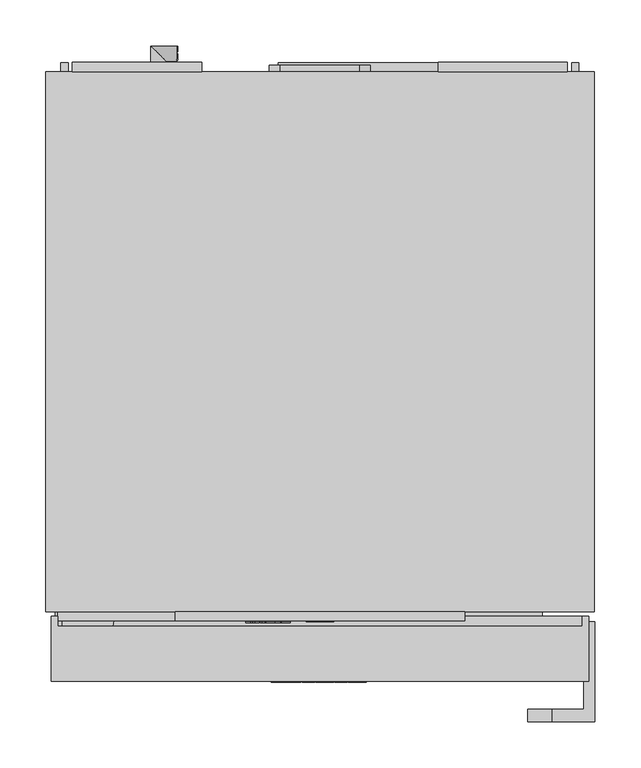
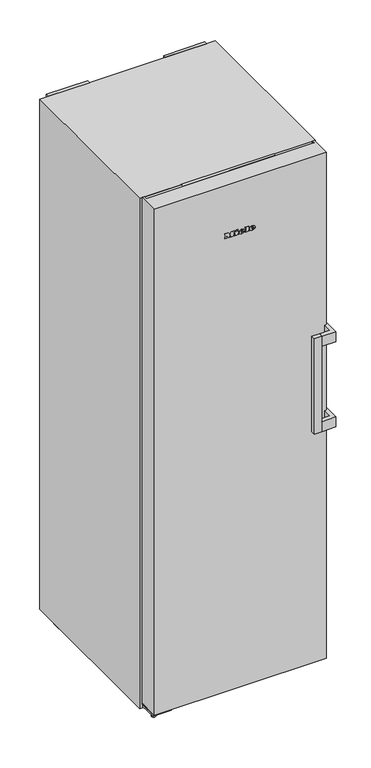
"""IFC4 building model written with IfcOpenShell, lengths in millimetres: proxy geometry, 11953070_EU2_FNS4382E_EL-N : 37438251_EU2_11953070_FNS4382E_EL-N."""

from ifc_helpers import new_model, si_unit, point, frame, frame_2d, origin, origin_with_axes, place, context, project, spatial, polyline, circle_curve, ellipse_curve, trimmed, segment, composite_curve, outline, extrude, faceted_brep, source, transform, mapped, element, save
from ifc_brep_helpers import plane_surface, cylinder_surface, revolved_surface, extruded_surface, advanced_brep


def specialty_equipment_a60234ec(model_context):
    return source(origin(), model_context, "Body", "SolidModel", [
        extrude(outline(polyline([(15.0, -609.5), (-15.0, -609.5), (-15.0, -606.5), (15.0, -606.5), (15.0, -609.5)])), frame((0.0, 0.0, 1812.0), z_axis=(0.0, 0.0, 1.0), x_axis=(1.0, 0.0, 0.0)), (0.0, 0.0, 1.0), 28.0),
        extrude(outline(polyline([(1845.5, 105.0), (1845.5, -105.0), (1806.5, -105.0), (1806.5, 105.0), (1845.5, 105.0)]), holes=[polyline([(1840.0, -15.0), (1840.0, 15.0), (1812.0, 15.0), (1812.0, -15.0), (1840.0, -15.0)])]), frame((0.0, -608.5, 0.0), z_axis=(0.0, 1.0, 0.0), x_axis=(0.0, 0.0, 1.0)), (0.0, 0.0, 1.0), 2.0),
        faceted_brep([(157.5, -598.5, 1802.0), (157.5, -608.5, 1802.0), (-157.5, -608.5, 1802.0), (-157.5, -598.5, 1802.0), (157.5, -598.5, 1850.0), (-157.5, -598.5, 1850.0), (-157.5, -608.5, 1850.0), (157.5, -608.5, 1850.0), (-105.0, -608.5, 1845.5), (105.0, -608.5, 1845.5), (105.0, -608.5, 1806.5), (-105.0, -608.5, 1806.5), (105.0, -606.5, 1845.5), (-105.0, -606.5, 1845.5), (-105.0, -606.5, 1806.5), (105.0, -606.5, 1806.5)], [[[0, 1, 2, 3]], [[4, 5, 6, 7]], [[0, 3, 5, 4]], [[3, 2, 6, 5]], [[2, 1, 7, 6], [8, 9, 10, 11]], [[1, 0, 4, 7]], [[12, 13, 14, 15]], [[13, 12, 9, 8]], [[14, 13, 8, 11]], [[15, 14, 11, 10]], [[12, 15, 10, 9]]]),
        advanced_brep(
        [(39.0804776, -675.5, 1668.7956125), (39.0804776, -675.5, 1670.5126125), (50.4534776, -675.5, 1670.5126125), (30.6654776, -675.5, 1670.5126125), (35.3404776, -675.5, 1664.7666125), (50.1644776, -675.5, 1668.7956125), (45.0304776, -675.5, 1668.7956125), (40.9844776, -675.5, 1666.8916125), (39.0804776, -675.5, 1672.6886125), (39.0804776, -675.5, 1674.5416125), (41.9874776, -675.5, 1674.5416125), (41.9874776, -675.5, 1672.6886125), (39.0804776, -674.5, 1668.7956125), (40.9844776, -674.5, 1666.8916125), (45.0304776, -674.5, 1668.7956125), (50.1644776, -674.5, 1668.7956125), (35.3404776, -674.5, 1664.7666125), (30.6654776, -674.5, 1670.5126125), (50.4534776, -674.5, 1670.5126125), (39.0804776, -674.5, 1670.5126125), (39.0804776, -674.5, 1672.6886125), (41.9874776, -674.5, 1672.6886125), (41.9874776, -674.5, 1674.5416125), (39.0804776, -674.5, 1674.5416125)],
        [
            (0, 1),
            (1, 2),
            (2, 3, ellipse_curve(frame((40.5594776, -675.5, 1670.5126125), z_axis=(0.0, -1.0, 0.0), x_axis=(-1.0, 0.0, 0.0)), 9.894, 8.177)),
            (3, 4, circle_curve(frame((37.2445704, -675.5, 1671.0906125), z_axis=(0.0, -1.0, 0.0), x_axis=(0.0, 0.0, -1.0)), 6.6044337)),
            (4, 5, circle_curve(frame((40.361414, -675.5, 1675.5786125), z_axis=(0.0, -1.0, 0.0), x_axis=(0.0, 0.0, -1.0)), 11.9209541)),
            (5, 6),
            (6, 7, circle_curve(frame((41.8154776, -675.5, 1670.3766125), z_axis=(0.0, 1.0, 0.0), x_axis=(0.0, 0.0, -1.0)), 3.5827065)),
            (7, 0, circle_curve(frame((40.9844776, -675.5, 1668.7956125), z_axis=(0.0, 1.0, 0.0), x_axis=(0.0, 0.0, -1.0)), 1.904)),
            (8, 9),
            (9, 10, circle_curve(frame((40.5339776, -675.5, 1674.5416125), z_axis=(0.0, 1.0, 0.0), x_axis=(0.0, 0.0, -1.0)), 1.4535)),
            (10, 11),
            (11, 8),
            (12, 13, circle_curve(frame((40.9844776, -674.5, 1668.7956125), z_axis=(0.0, -1.0, 0.0), x_axis=(0.0, 0.0, -1.0)), 1.904)),
            (13, 14, circle_curve(frame((41.8154776, -674.5, 1670.3766125), z_axis=(0.0, -1.0, 0.0), x_axis=(0.0, 0.0, -1.0)), 3.5827065)),
            (14, 15),
            (15, 16, circle_curve(frame((40.361414, -674.5, 1675.5786125), z_axis=(0.0, 1.0, 0.0), x_axis=(0.0, 0.0, -1.0)), 11.9209541)),
            (16, 17, circle_curve(frame((37.2445704, -674.5, 1671.0906125), z_axis=(0.0, 1.0, 0.0), x_axis=(0.0, 0.0, -1.0)), 6.6044337)),
            (17, 18, ellipse_curve(frame((40.5594776, -674.5, 1670.5126125), z_axis=(0.0, 1.0, 0.0), x_axis=(-1.0, 0.0, 0.0)), 9.894, 8.177)),
            (18, 19),
            (19, 12),
            (20, 21),
            (21, 22),
            (22, 23, circle_curve(frame((40.5339776, -674.5, 1674.5416125), z_axis=(0.0, -1.0, 0.0), x_axis=(0.0, 0.0, -1.0)), 1.4535)),
            (23, 20),
            (0, 12),
            (19, 1),
            (18, 2),
            (5, 15),
            (14, 6),
            (17, 3),
            (13, 7),
            (16, 4),
            (8, 20),
            (23, 9),
            (22, 10),
            (21, 11),
        ],
        [
            plane_surface(frame((39.0804776, -675.5, 1670.5126125), z_axis=(0.0, -1.0, 0.0), x_axis=(0.0, 0.0, 1.0))),
            plane_surface(frame((39.0804776, -674.5, 1670.5126125), z_axis=(0.0, 1.0, 0.0), x_axis=(0.0, 0.0, -1.0))),
            plane_surface(frame((39.0804776, -675.5, 1668.7956125), z_axis=(1.0, 0.0, 0.0), x_axis=(0.0, 1.0, 0.0))),
            plane_surface(frame((39.0804776, -675.5, 1670.5126125), z_axis=(0.0, 0.0, -1.0), x_axis=(0.0, 1.0, 0.0))),
            plane_surface(frame((50.1644776, -675.5, 1668.7956125), z_axis=(0.0, 0.0, 1.0), x_axis=(0.0, 1.0, 0.0))),
            extruded_surface(trimmed(ellipse_curve(frame((40.5594776, -673.5, 1670.5126125), z_axis=(0.0, -1.0, 0.0), x_axis=(-1.0, 0.0, 0.0)), 9.894, 8.177), [point((50.4534776, -673.5, 1670.5126125))], [point((30.6654776, -673.5, 1670.5126125))], True, "CARTESIAN"), (0.0, -1.0, 0.0), 1.0),
            revolved_surface(polyline([(41.8154776, -674.5, 1666.7939059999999), (41.8154776, -675.5, 1666.7939059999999)]), (41.8154776, -674.5, 1670.3766125), (0.0, 1.0, 0.0)),
            revolved_surface(polyline([(40.9844776, -674.5, 1666.8916125), (40.9844776, -675.5, 1666.8916125)]), (40.9844776, -674.5, 1668.7956125), (0.0, 1.0, 0.0)),
            cylinder_surface(frame((37.2445704, -674.5, 1671.0906125), z_axis=(0.0, -1.0, 0.0), x_axis=(0.0, 0.0, -1.0)), 6.6044337),
            cylinder_surface(frame((40.361414, -674.5, 1675.5786125), z_axis=(0.0, -1.0, 0.0), x_axis=(0.0, 0.0, -1.0)), 11.9209541),
            plane_surface(frame((39.0804776, -675.5, 1672.6886125), z_axis=(1.0, 0.0, 0.0), x_axis=(0.0, 1.0, 0.0))),
            revolved_surface(polyline([(40.5339776, -674.5, 1673.0881124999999), (40.5339776, -675.5, 1673.0881124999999)]), (40.5339776, -674.5, 1674.5416125), (0.0, 1.0, 0.0)),
            plane_surface(frame((41.9874776, -675.5, 1674.5416125), z_axis=(-1.0, 0.0, 0.0), x_axis=(0.0, 1.0, 0.0))),
            plane_surface(frame((41.9874776, -675.5, 1672.6886125), z_axis=(0.0, 0.0, 1.0), x_axis=(0.0, 1.0, 0.0))),
        ],
        [
            (0, [[1, 2, 3, 4, 5, 6, 7, 8], [9, 10, 11, 12]]),
            (1, [[13, 14, 15, 16, 17, 18, 19, 20], [21, 22, 23, 24]]),
            (2, [[-1, 25, -20, 26]]),
            (3, [[-2, -26, -19, 27]]),
            (4, [[-6, 28, -15, 29]]),
            (5, [[-3, -27, -18, 30]]),
            (6, [[-7, -29, -14, 31]]),
            (7, [[-8, -31, -13, -25]]),
            (8, [[-4, -30, -17, 32]]),
            (9, [[-5, -32, -16, -28]]),
            (10, [[-9, 33, -24, 34]]),
            (11, [[-10, -34, -23, 35]]),
            (12, [[-11, -35, -22, 36]]),
            (13, [[-12, -36, -21, -33]]),
        ],
    ),
        advanced_brep(
        [(3.6014776, -675.5, 1668.7956125), (3.6014776, -675.5, 1670.5126125), (14.9744776, -675.5, 1670.5126125), (-4.8135224, -675.5, 1670.5126125), (-0.1385224, -675.5, 1664.7666125), (14.6854776, -675.5, 1668.7956125), (9.5514776, -675.5, 1668.7956125), (5.5054776, -675.5, 1666.8916125), (3.6014776, -675.5, 1672.6886125), (3.6014776, -675.5, 1674.5416125), (6.5084776, -675.5, 1674.5416125), (6.5084776, -675.5, 1672.6886125), (3.6014776, -674.5, 1668.7956125), (5.5054776, -674.5, 1666.8916125), (9.5514776, -674.5, 1668.7956125), (14.6854776, -674.5, 1668.7956125), (-0.1385224, -674.5, 1664.7666125), (-4.8135224, -674.5, 1670.5126125), (14.9744776, -674.5, 1670.5126125), (3.6014776, -674.5, 1670.5126125), (3.6014776, -674.5, 1672.6886125), (6.5084776, -674.5, 1672.6886125), (6.5084776, -674.5, 1674.5416125), (3.6014776, -674.5, 1674.5416125)],
        [
            (0, 1),
            (1, 2),
            (2, 3, ellipse_curve(frame((5.0804776, -675.5, 1670.5126125), z_axis=(0.0, -1.0, 0.0), x_axis=(-1.0, 0.0, 0.0)), 9.894, 8.177)),
            (3, 4, circle_curve(frame((1.7655704, -675.5, 1671.0906125), z_axis=(0.0, -1.0, 0.0), x_axis=(0.0, 0.0, -1.0)), 6.6044337)),
            (4, 5, circle_curve(frame((4.882414, -675.5, 1675.5786125), z_axis=(0.0, -1.0, 0.0), x_axis=(0.0, 0.0, -1.0)), 11.9209541)),
            (5, 6),
            (6, 7, circle_curve(frame((6.3364776, -675.5, 1670.3766125), z_axis=(0.0, 1.0, 0.0), x_axis=(0.0, 0.0, -1.0)), 3.5827065)),
            (7, 0, circle_curve(frame((5.5054776, -675.5, 1668.7956125), z_axis=(0.0, 1.0, 0.0), x_axis=(0.0, 0.0, -1.0)), 1.904)),
            (8, 9),
            (9, 10, circle_curve(frame((5.0549776, -675.5, 1674.5416125), z_axis=(0.0, 1.0, 0.0), x_axis=(0.0, 0.0, -1.0)), 1.4535)),
            (10, 11),
            (11, 8),
            (12, 13, circle_curve(frame((5.5054776, -674.5, 1668.7956125), z_axis=(0.0, -1.0, 0.0), x_axis=(0.0, 0.0, -1.0)), 1.904)),
            (13, 14, circle_curve(frame((6.3364776, -674.5, 1670.3766125), z_axis=(0.0, -1.0, 0.0), x_axis=(0.0, 0.0, -1.0)), 3.5827065)),
            (14, 15),
            (15, 16, circle_curve(frame((4.882414, -674.5, 1675.5786125), z_axis=(0.0, 1.0, 0.0), x_axis=(0.0, 0.0, -1.0)), 11.9209541)),
            (16, 17, circle_curve(frame((1.7655704, -674.5, 1671.0906125), z_axis=(0.0, 1.0, 0.0), x_axis=(0.0, 0.0, -1.0)), 6.6044337)),
            (17, 18, ellipse_curve(frame((5.0804776, -674.5, 1670.5126125), z_axis=(0.0, 1.0, 0.0), x_axis=(-1.0, 0.0, 0.0)), 9.894, 8.177)),
            (18, 19),
            (19, 12),
            (20, 21),
            (21, 22),
            (22, 23, circle_curve(frame((5.0549776, -674.5, 1674.5416125), z_axis=(0.0, -1.0, 0.0), x_axis=(0.0, 0.0, -1.0)), 1.4535)),
            (23, 20),
            (0, 12),
            (19, 1),
            (18, 2),
            (5, 15),
            (14, 6),
            (17, 3),
            (13, 7),
            (16, 4),
            (8, 20),
            (23, 9),
            (22, 10),
            (21, 11),
        ],
        [
            plane_surface(frame((3.6014776, -675.5, 1670.5126125), z_axis=(0.0, -1.0, 0.0), x_axis=(0.0, 0.0, 1.0))),
            plane_surface(frame((3.6014776, -674.5, 1670.5126125), z_axis=(0.0, 1.0, 0.0), x_axis=(0.0, 0.0, -1.0))),
            plane_surface(frame((3.6014776, -675.5, 1668.7956125), z_axis=(1.0, 0.0, 0.0), x_axis=(0.0, 1.0, 0.0))),
            plane_surface(frame((3.6014776, -675.5, 1670.5126125), z_axis=(0.0, 0.0, -1.0), x_axis=(0.0, 1.0, 0.0))),
            plane_surface(frame((14.6854776, -675.5, 1668.7956125), z_axis=(0.0, 0.0, 1.0), x_axis=(0.0, 1.0, 0.0))),
            extruded_surface(trimmed(ellipse_curve(frame((5.0804776, -673.5, 1670.5126125), z_axis=(0.0, -1.0, 0.0), x_axis=(-1.0, 0.0, 0.0)), 9.894, 8.177), [point((14.9744776, -673.5, 1670.5126125))], [point((-4.8135224, -673.5, 1670.5126125))], True, "CARTESIAN"), (0.0, -1.0, 0.0), 1.0),
            revolved_surface(polyline([(6.3364776, -674.5, 1666.7939059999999), (6.3364776, -675.5, 1666.7939059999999)]), (6.3364776, -674.5, 1670.3766125), (0.0, 1.0, 0.0)),
            revolved_surface(polyline([(5.5054776, -674.5, 1666.8916125), (5.5054776, -675.5, 1666.8916125)]), (5.5054776, -674.5, 1668.7956125), (0.0, 1.0, 0.0)),
            cylinder_surface(frame((1.7655704, -674.5, 1671.0906125), z_axis=(0.0, -1.0, 0.0), x_axis=(0.0, 0.0, -1.0)), 6.6044337),
            cylinder_surface(frame((4.882414, -674.5, 1675.5786125), z_axis=(0.0, -1.0, 0.0), x_axis=(0.0, 0.0, -1.0)), 11.9209541),
            plane_surface(frame((3.6014776, -675.5, 1672.6886125), z_axis=(1.0, 0.0, 0.0), x_axis=(0.0, 1.0, 0.0))),
            revolved_surface(polyline([(5.0549776, -674.5, 1673.0881124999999), (5.0549776, -675.5, 1673.0881124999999)]), (5.0549776, -674.5, 1674.5416125), (0.0, 1.0, 0.0)),
            plane_surface(frame((6.5084776, -675.5, 1674.5416125), z_axis=(-1.0, 0.0, 0.0), x_axis=(0.0, 1.0, 0.0))),
            plane_surface(frame((6.5084776, -675.5, 1672.6886125), z_axis=(0.0, 0.0, 1.0), x_axis=(0.0, 1.0, 0.0))),
        ],
        [
            (0, [[1, 2, 3, 4, 5, 6, 7, 8], [9, 10, 11, 12]]),
            (1, [[13, 14, 15, 16, 17, 18, 19, 20], [21, 22, 23, 24]]),
            (2, [[-1, 25, -20, 26]]),
            (3, [[-2, -26, -19, 27]]),
            (4, [[-6, 28, -15, 29]]),
            (5, [[-3, -27, -18, 30]]),
            (6, [[-7, -29, -14, 31]]),
            (7, [[-8, -31, -13, -25]]),
            (8, [[-4, -30, -17, 32]]),
            (9, [[-5, -32, -16, -28]]),
            (10, [[-9, 33, -24, 34]]),
            (11, [[-10, -34, -23, 35]]),
            (12, [[-11, -35, -22, 36]]),
            (13, [[-12, -36, -21, -33]]),
        ],
    ),
        extrude(outline(polyline([(1680.7636125, -14.9795224), (1678.0096125, -13.6875224), (1680.6956125, -7.9245224), (1683.4496125, -9.1995224), (1680.7636125, -14.9795224)])), frame((0.0, -675.5, 0.0), z_axis=(0.0, 1.0, 0.0), x_axis=(0.0, 0.0, 1.0)), (0.0, 0.0, 1.0), 1.0),
        extrude(outline(polyline([(1677.6356125, -19.1785224), (1674.5926125, -19.1785224), (1674.5926125, -17.1555224), (1667.6226125, -17.1555224), (1667.6226125, -19.1785224), (1664.7666125, -19.1785224), (1664.7666125, -5.7655224), (1667.6226125, -5.7655224), (1667.6226125, -7.7375224), (1677.6356125, -7.7375224), (1677.6356125, -19.1785224)])), frame((0.0, -675.5, 0.0), z_axis=(0.0, 1.0, 0.0), x_axis=(0.0, 0.0, 1.0)), (0.0, 0.0, 1.0), 1.0),
        extrude(outline(polyline([(1678.9956125, 15.9264776), (1678.9956125, 17.9664776), (1667.6226125, 17.9664776), (1667.6226125, 15.9264776), (1664.7666125, 15.9264776), (1664.7666125, 29.7134776), (1667.6226125, 29.7134776), (1667.6226125, 27.6224776), (1681.7666125, 27.6224776), (1681.7666125, 15.9264776), (1678.9956125, 15.9264776)])), frame((0.0, -675.5, 0.0), z_axis=(0.0, 1.0, 0.0), x_axis=(0.0, 0.0, 1.0)), (0.0, 0.0, 1.0), 1.0),
        extrude(outline(polyline([(1678.9956125, -53.0595224), (1678.9956125, -51.0025224), (1667.6226125, -51.0025224), (1667.6226125, -53.0595224), (1664.7666125, -53.0595224), (1664.7666125, -45.5795224), (1667.6226125, -45.5795224), (1667.6226125, -47.6195224), (1674.7967372, -47.6195224), (1664.7666125, -40.0205224), (1675.2068348, -32.3875224), (1667.6226125, -32.3875224), (1667.6226125, -34.4785224), (1664.7666125, -34.4785224), (1664.7666125, -20.9125224), (1667.6226125, -20.9125224), (1667.6226125, -23.0715224), (1678.9956125, -23.0715224), (1678.9956125, -20.9125224), (1681.7666125, -20.9125224), (1681.7666125, -31.2655224), (1675.3916125, -36.2295224), (1681.7666125, -41.2105224), (1681.7666125, -53.0595224), (1678.9956125, -53.0595224)])), frame((0.0, -675.5, 0.0), z_axis=(0.0, 1.0, 0.0), x_axis=(0.0, 0.0, 1.0)), (0.0, 0.0, 1.0), 1.0),
        advanced_brep(
        [(-37.64, -610.5, 1828.896), (-37.64, -610.5, 1829.704), (-32.288, -610.5, 1829.704), (-41.6, -610.5, 1829.704), (-39.4, -610.5, 1827.0), (-32.424, -610.5, 1828.896), (-34.84, -610.5, 1828.896), (-36.744, -610.5, 1828.0), (-37.64, -610.5, 1830.728), (-37.64, -610.5, 1831.6), (-36.272, -610.5, 1831.6), (-36.272, -610.5, 1830.728), (-37.64, -609.5, 1828.896), (-36.744, -609.5, 1828.0), (-34.84, -609.5, 1828.896), (-32.424, -609.5, 1828.896), (-39.4, -609.5, 1827.0), (-41.6, -609.5, 1829.704), (-32.288, -609.5, 1829.704), (-37.64, -609.5, 1829.704), (-37.64, -609.5, 1830.728), (-36.272, -609.5, 1830.728), (-36.272, -609.5, 1831.6), (-37.64, -609.5, 1831.6)],
        [
            (0, 1),
            (1, 2),
            (2, 3, ellipse_curve(frame((-36.944, -610.5, 1829.704), z_axis=(0.0, -1.0, 0.0), x_axis=(-1.0, 0.0, 0.0)), 4.656, 3.848)),
            (3, 4, circle_curve(frame((-38.5039564, -610.5, 1829.976), z_axis=(0.0, -1.0, 0.0), x_axis=(0.0, 0.0, -1.0)), 3.1079688)),
            (4, 5, circle_curve(frame((-37.0372064, -610.5, 1832.088), z_axis=(0.0, -1.0, 0.0), x_axis=(0.0, 0.0, -1.0)), 5.6098607)),
            (5, 6),
            (6, 7, circle_curve(frame((-36.3529412, -610.5, 1829.64), z_axis=(0.0, 1.0, 0.0), x_axis=(0.0, 0.0, -1.0)), 1.6859795)),
            (7, 0, circle_curve(frame((-36.744, -610.5, 1828.896), z_axis=(0.0, 1.0, 0.0), x_axis=(0.0, 0.0, -1.0)), 0.896)),
            (8, 9),
            (9, 10, circle_curve(frame((-36.956, -610.5, 1831.6), z_axis=(0.0, 1.0, 0.0), x_axis=(0.0, 0.0, -1.0)), 0.684)),
            (10, 11),
            (11, 8),
            (12, 13, circle_curve(frame((-36.744, -609.5, 1828.896), z_axis=(0.0, -1.0, 0.0), x_axis=(0.0, 0.0, -1.0)), 0.896)),
            (13, 14, circle_curve(frame((-36.3529412, -609.5, 1829.64), z_axis=(0.0, -1.0, 0.0), x_axis=(0.0, 0.0, -1.0)), 1.6859795)),
            (14, 15),
            (15, 16, circle_curve(frame((-37.0372064, -609.5, 1832.088), z_axis=(0.0, 1.0, 0.0), x_axis=(0.0, 0.0, -1.0)), 5.6098607)),
            (16, 17, circle_curve(frame((-38.5039564, -609.5, 1829.976), z_axis=(0.0, 1.0, 0.0), x_axis=(0.0, 0.0, -1.0)), 3.1079688)),
            (17, 18, ellipse_curve(frame((-36.944, -609.5, 1829.704), z_axis=(0.0, 1.0, 0.0), x_axis=(-1.0, 0.0, 0.0)), 4.656, 3.848)),
            (18, 19),
            (19, 12),
            (20, 21),
            (21, 22),
            (22, 23, circle_curve(frame((-36.956, -609.5, 1831.6), z_axis=(0.0, -1.0, 0.0), x_axis=(0.0, 0.0, -1.0)), 0.684)),
            (23, 20),
            (0, 12),
            (19, 1),
            (18, 2),
            (5, 15),
            (14, 6),
            (17, 3),
            (13, 7),
            (16, 4),
            (8, 20),
            (23, 9),
            (22, 10),
            (21, 11),
        ],
        [
            plane_surface(frame((-37.64, -610.5, 1829.704), z_axis=(0.0, -1.0, 0.0), x_axis=(0.0, 0.0, 1.0))),
            plane_surface(frame((-37.64, -609.5, 1829.704), z_axis=(0.0, 1.0, 0.0), x_axis=(0.0, 0.0, -1.0))),
            plane_surface(frame((-37.64, -610.5, 1828.896), z_axis=(1.0, 0.0, 0.0), x_axis=(0.0, 1.0, 0.0))),
            plane_surface(frame((-37.64, -610.5, 1829.704), z_axis=(0.0, 0.0, -1.0), x_axis=(0.0, 1.0, 0.0))),
            plane_surface(frame((-32.424, -610.5, 1828.896), z_axis=(0.0, 0.0, 1.0), x_axis=(0.0, 1.0, 0.0))),
            extruded_surface(trimmed(ellipse_curve(frame((-36.944, -608.5, 1829.704), z_axis=(0.0, -1.0, 0.0), x_axis=(-1.0, 0.0, 0.0)), 4.656, 3.848), [point((-32.288, -608.5, 1829.704))], [point((-41.6, -608.5, 1829.704))], True, "CARTESIAN"), (0.0, -1.0, 0.0), 1.0),
            revolved_surface(polyline([(-36.3529412, -609.5, 1827.9540205), (-36.3529412, -610.5, 1827.9540205)]), (-36.3529412, -609.5, 1829.64), (0.0, 1.0, 0.0)),
            revolved_surface(polyline([(-36.744, -609.5, 1828.0), (-36.744, -610.5, 1828.0)]), (-36.744, -609.5, 1828.896), (0.0, 1.0, 0.0)),
            cylinder_surface(frame((-38.5039564, -609.5, 1829.976), z_axis=(0.0, -1.0, 0.0), x_axis=(0.0, 0.0, -1.0)), 3.1079688),
            cylinder_surface(frame((-37.0372064, -609.5, 1832.088), z_axis=(0.0, -1.0, 0.0), x_axis=(0.0, 0.0, -1.0)), 5.6098607),
            plane_surface(frame((-37.64, -610.5, 1830.728), z_axis=(1.0, 0.0, 0.0), x_axis=(0.0, 1.0, 0.0))),
            revolved_surface(polyline([(-36.956, -609.5, 1830.916), (-36.956, -610.5, 1830.916)]), (-36.956, -609.5, 1831.6), (0.0, 1.0, 0.0)),
            plane_surface(frame((-36.272, -610.5, 1831.6), z_axis=(-1.0, 0.0, 0.0), x_axis=(0.0, 1.0, 0.0))),
            plane_surface(frame((-36.272, -610.5, 1830.728), z_axis=(0.0, 0.0, 1.0), x_axis=(0.0, 1.0, 0.0))),
        ],
        [
            (0, [[1, 2, 3, 4, 5, 6, 7, 8], [9, 10, 11, 12]]),
            (1, [[13, 14, 15, 16, 17, 18, 19, 20], [21, 22, 23, 24]]),
            (2, [[-1, 25, -20, 26]]),
            (3, [[-2, -26, -19, 27]]),
            (4, [[-6, 28, -15, 29]]),
            (5, [[-3, -27, -18, 30]]),
            (6, [[-7, -29, -14, 31]]),
            (7, [[-8, -31, -13, -25]]),
            (8, [[-4, -30, -17, 32]]),
            (9, [[-5, -32, -16, -28]]),
            (10, [[-9, 33, -24, 34]]),
            (11, [[-10, -34, -23, 35]]),
            (12, [[-11, -35, -22, 36]]),
            (13, [[-12, -36, -21, -33]]),
        ],
    ),
        advanced_brep(
        [(-54.336, -610.5, 1828.896), (-54.336, -610.5, 1829.704), (-48.984, -610.5, 1829.704), (-58.296, -610.5, 1829.704), (-56.096, -610.5, 1827.0), (-49.12, -610.5, 1828.896), (-51.536, -610.5, 1828.896), (-53.44, -610.5, 1828.0), (-54.336, -610.5, 1830.728), (-54.336, -610.5, 1831.6), (-52.968, -610.5, 1831.6), (-52.968, -610.5, 1830.728), (-54.336, -609.5, 1828.896), (-53.44, -609.5, 1828.0), (-51.536, -609.5, 1828.896), (-49.12, -609.5, 1828.896), (-56.096, -609.5, 1827.0), (-58.296, -609.5, 1829.704), (-48.984, -609.5, 1829.704), (-54.336, -609.5, 1829.704), (-54.336, -609.5, 1830.728), (-52.968, -609.5, 1830.728), (-52.968, -609.5, 1831.6), (-54.336, -609.5, 1831.6)],
        [
            (0, 1),
            (1, 2),
            (2, 3, ellipse_curve(frame((-53.64, -610.5, 1829.704), z_axis=(0.0, -1.0, 0.0), x_axis=(-1.0, 0.0, 0.0)), 4.656, 3.848)),
            (3, 4, circle_curve(frame((-55.1999564, -610.5, 1829.976), z_axis=(0.0, -1.0, 0.0), x_axis=(0.0, 0.0, -1.0)), 3.1079688)),
            (4, 5, circle_curve(frame((-53.7332064, -610.5, 1832.088), z_axis=(0.0, -1.0, 0.0), x_axis=(0.0, 0.0, -1.0)), 5.6098607)),
            (5, 6),
            (6, 7, circle_curve(frame((-53.0489412, -610.5, 1829.64), z_axis=(0.0, 1.0, 0.0), x_axis=(0.0, 0.0, -1.0)), 1.6859795)),
            (7, 0, circle_curve(frame((-53.44, -610.5, 1828.896), z_axis=(0.0, 1.0, 0.0), x_axis=(0.0, 0.0, -1.0)), 0.896)),
            (8, 9),
            (9, 10, circle_curve(frame((-53.652, -610.5, 1831.6), z_axis=(0.0, 1.0, 0.0), x_axis=(0.0, 0.0, -1.0)), 0.684)),
            (10, 11),
            (11, 8),
            (12, 13, circle_curve(frame((-53.44, -609.5, 1828.896), z_axis=(0.0, -1.0, 0.0), x_axis=(0.0, 0.0, -1.0)), 0.896)),
            (13, 14, circle_curve(frame((-53.0489412, -609.5, 1829.64), z_axis=(0.0, -1.0, 0.0), x_axis=(0.0, 0.0, -1.0)), 1.6859795)),
            (14, 15),
            (15, 16, circle_curve(frame((-53.7332064, -609.5, 1832.088), z_axis=(0.0, 1.0, 0.0), x_axis=(0.0, 0.0, -1.0)), 5.6098607)),
            (16, 17, circle_curve(frame((-55.1999564, -609.5, 1829.976), z_axis=(0.0, 1.0, 0.0), x_axis=(0.0, 0.0, -1.0)), 3.1079688)),
            (17, 18, ellipse_curve(frame((-53.64, -609.5, 1829.704), z_axis=(0.0, 1.0, 0.0), x_axis=(-1.0, 0.0, 0.0)), 4.656, 3.848)),
            (18, 19),
            (19, 12),
            (20, 21),
            (21, 22),
            (22, 23, circle_curve(frame((-53.652, -609.5, 1831.6), z_axis=(0.0, -1.0, 0.0), x_axis=(0.0, 0.0, -1.0)), 0.684)),
            (23, 20),
            (0, 12),
            (19, 1),
            (18, 2),
            (5, 15),
            (14, 6),
            (17, 3),
            (13, 7),
            (16, 4),
            (8, 20),
            (23, 9),
            (22, 10),
            (21, 11),
        ],
        [
            plane_surface(frame((-54.336, -610.5, 1829.704), z_axis=(0.0, -1.0, 0.0), x_axis=(0.0, 0.0, 1.0))),
            plane_surface(frame((-54.336, -609.5, 1829.704), z_axis=(0.0, 1.0, 0.0), x_axis=(0.0, 0.0, -1.0))),
            plane_surface(frame((-54.336, -610.5, 1828.896), z_axis=(1.0, 0.0, 0.0), x_axis=(0.0, 1.0, 0.0))),
            plane_surface(frame((-54.336, -610.5, 1829.704), z_axis=(0.0, 0.0, -1.0), x_axis=(0.0, 1.0, 0.0))),
            plane_surface(frame((-49.12, -610.5, 1828.896), z_axis=(0.0, 0.0, 1.0), x_axis=(0.0, 1.0, 0.0))),
            extruded_surface(trimmed(ellipse_curve(frame((-53.64, -608.5, 1829.704), z_axis=(0.0, -1.0, 0.0), x_axis=(-1.0, 0.0, 0.0)), 4.656, 3.848), [point((-48.984, -608.5, 1829.704))], [point((-58.296, -608.5, 1829.704))], True, "CARTESIAN"), (0.0, -1.0, 0.0), 1.0),
            revolved_surface(polyline([(-53.0489412, -609.5, 1827.9540205), (-53.0489412, -610.5, 1827.9540205)]), (-53.0489412, -609.5, 1829.64), (0.0, 1.0, 0.0)),
            revolved_surface(polyline([(-53.44, -609.5, 1828.0), (-53.44, -610.5, 1828.0)]), (-53.44, -609.5, 1828.896), (0.0, 1.0, 0.0)),
            cylinder_surface(frame((-55.1999564, -609.5, 1829.976), z_axis=(0.0, -1.0, 0.0), x_axis=(0.0, 0.0, -1.0)), 3.1079688),
            cylinder_surface(frame((-53.7332064, -609.5, 1832.088), z_axis=(0.0, -1.0, 0.0), x_axis=(0.0, 0.0, -1.0)), 5.6098607),
            plane_surface(frame((-54.336, -610.5, 1830.728), z_axis=(1.0, 0.0, 0.0), x_axis=(0.0, 1.0, 0.0))),
            revolved_surface(polyline([(-53.652, -609.5, 1830.916), (-53.652, -610.5, 1830.916)]), (-53.652, -609.5, 1831.6), (0.0, 1.0, 0.0)),
            plane_surface(frame((-52.968, -610.5, 1831.6), z_axis=(-1.0, 0.0, 0.0), x_axis=(0.0, 1.0, 0.0))),
            plane_surface(frame((-52.968, -610.5, 1830.728), z_axis=(0.0, 0.0, 1.0), x_axis=(0.0, 1.0, 0.0))),
        ],
        [
            (0, [[1, 2, 3, 4, 5, 6, 7, 8], [9, 10, 11, 12]]),
            (1, [[13, 14, 15, 16, 17, 18, 19, 20], [21, 22, 23, 24]]),
            (2, [[-1, 25, -20, 26]]),
            (3, [[-2, -26, -19, 27]]),
            (4, [[-6, 28, -15, 29]]),
            (5, [[-3, -27, -18, 30]]),
            (6, [[-7, -29, -14, 31]]),
            (7, [[-8, -31, -13, -25]]),
            (8, [[-4, -30, -17, 32]]),
            (9, [[-5, -32, -16, -28]]),
            (10, [[-9, 33, -24, 34]]),
            (11, [[-10, -34, -23, 35]]),
            (12, [[-11, -35, -22, 36]]),
            (13, [[-12, -36, -21, -33]]),
        ],
    ),
        extrude(outline(polyline([(1834.528, -63.08), (1833.232, -62.472), (1834.496, -59.76), (1835.792, -60.36), (1834.528, -63.08)])), frame((0.0, -610.5, 0.0), z_axis=(0.0, 1.0, 0.0), x_axis=(0.0, 0.0, 1.0)), (0.0, 0.0, 1.0), 1.0),
        extrude(outline(polyline([(1833.056, -65.056), (1831.624, -65.056), (1831.624, -64.104), (1828.344, -64.104), (1828.344, -65.056), (1827.0, -65.056), (1827.0, -58.744), (1828.344, -58.744), (1828.344, -59.672), (1833.056, -59.672), (1833.056, -65.056)])), frame((0.0, -610.5, 0.0), z_axis=(0.0, 1.0, 0.0), x_axis=(0.0, 0.0, 1.0)), (0.0, 0.0, 1.0), 1.0),
        extrude(outline(polyline([(1833.696, -48.536), (1833.696, -47.576), (1828.344, -47.576), (1828.344, -48.536), (1827.0, -48.536), (1827.0, -42.048), (1828.344, -42.048), (1828.344, -43.032), (1835.0, -43.032), (1835.0, -48.536), (1833.696, -48.536)])), frame((0.0, -610.5, 0.0), z_axis=(0.0, 1.0, 0.0), x_axis=(0.0, 0.0, 1.0)), (0.0, 0.0, 1.0), 1.0),
        extrude(outline(polyline([(1833.696, -81.0), (1833.696, -80.032), (1828.344, -80.032), (1828.344, -81.0), (1827.0, -81.0), (1827.0, -77.48), (1828.344, -77.48), (1828.344, -78.44), (1831.7471247, -78.44), (1827.0, -74.864), (1831.8152223, -71.272), (1828.344, -71.272), (1828.344, -72.256), (1827.0, -72.256), (1827.0, -65.872), (1828.344, -65.872), (1828.344, -66.888), (1833.696, -66.888), (1833.696, -65.872), (1835.0, -65.872), (1835.0, -70.744), (1832.0, -73.08), (1835.0, -75.424), (1835.0, -81.0), (1833.696, -81.0)])), frame((0.0, -610.5, 0.0), z_axis=(0.0, 1.0, 0.0), x_axis=(0.0, 0.0, 1.0)), (0.0, 0.0, 1.0), 1.0),
        extrude(outline(polyline([(-42.8527823, 0.0), (-48.1304417, 3.2708192), (-29.8908031, 3.2708192), (-34.9274229, 0.0), (-42.8527823, 0.0)])), frame((238.5469678, 0.0, 0.0), z_axis=(1.0, 0.0, 0.0), x_axis=(0.0, 1.0, 0.0)), (0.0, 0.0, 1.0), 15.1632647),
        extrude(outline(polyline([(-42.8527823, 0.0), (-48.1304417, 3.2708192), (-29.8908031, 3.2708192), (-34.9274229, 0.0), (-42.8527823, 0.0)])), frame((-253.7102325, 0.0, 0.0), z_axis=(1.0, 0.0, 0.0), x_axis=(0.0, 1.0, 0.0)), (0.0, 0.0, 1.0), 15.1632647),
        extrude(outline(polyline([(2.1227397, 65.0), (2.1227397, 75.045631), (9.343037, 75.045631), (9.343037, 73.7899271), (3.3784436, 73.7899271), (3.3784436, 70.8076304), (9.029111, 70.8076304), (9.029111, 69.5519266), (3.3784436, 69.5519266), (3.3784436, 66.2557039), (9.5, 66.2557039), (9.5, 65.0), (2.1227397, 65.0)])), frame((-156.0615355, 0.0, 0.0), z_axis=(1.0, 0.0, 0.0), x_axis=(0.0, 1.0, 0.0)), (0.0, 0.0, 1.0), 1.0),
        extrude(outline(polyline([(11.3835558, 65.0), (11.3835558, 75.045631), (12.6392597, 75.045631), (12.6392597, 66.2557039), (17.6620752, 66.2557039), (17.6620752, 65.0), (11.3835558, 65.0)])), frame((-156.0615355, 0.0, 0.0), z_axis=(1.0, 0.0, 0.0), x_axis=(0.0, 1.0, 0.0)), (0.0, 0.0, 1.0), 1.0),
        advanced_brep(
        [(-168.0615355, -10.5, 70.0), (-184.0615355, -10.5, 70.0), (-168.0615355, 1.5, 70.0), (-184.0615355, 17.5, 70.0), (-156.0615355, 1.5, 70.0), (-156.0615355, 17.5, 70.0)],
        [
            (0, 1, circle_curve(frame((-176.0615355, -10.5, 70.0), z_axis=(0.0, -1.0, 0.0), x_axis=(-1.0, 0.0, 0.0)), 8.0)),
            (1, 0, circle_curve(frame((-176.0615355, -10.5, 70.0), z_axis=(0.0, -1.0, 0.0), x_axis=(-1.0, 0.0, 0.0)), 8.0)),
            (0, 2),
            (2, 3, ellipse_curve(frame((-176.0615355, 9.5, 70.0), z_axis=(-0.7071067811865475, -0.7071067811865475, 0.0), x_axis=(0.7071067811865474, -0.7071067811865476, 0.0)), 11.3137085, 8.0)),
            (3, 1),
            (3, 2, ellipse_curve(frame((-176.0615355, 9.5, 70.0), z_axis=(-0.7071067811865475, -0.7071067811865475, 0.0), x_axis=(0.7071067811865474, -0.7071067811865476, 0.0)), 11.3137085, 8.0)),
            (4, 5, circle_curve(frame((-156.0615355, 9.5, 70.0), z_axis=(1.0, 0.0, 0.0), x_axis=(0.0, 1.0, 0.0)), 8.0)),
            (5, 4, circle_curve(frame((-156.0615355, 9.5, 70.0), z_axis=(1.0, 0.0, 0.0), x_axis=(0.0, 1.0, 0.0)), 8.0)),
            (2, 4),
            (5, 3),
        ],
        [
            plane_surface(frame((-176.0615355, -10.5, 0.0), z_axis=(0.0, -1.0, 0.0), x_axis=(0.0, 0.0, 1.0))),
            cylinder_surface(frame((-176.0615355, -10.5, 70.0), z_axis=(0.0, -1.0, 0.0), x_axis=(-1.0, 0.0, 0.0)), 8.0),
            plane_surface(frame((-156.0615355, 9.5, 0.0), z_axis=(1.0, 0.0, 0.0), x_axis=(0.0, 0.0, 1.0))),
            cylinder_surface(frame((-176.0615355, 9.5, 70.0), z_axis=(-1.0, 0.0, 0.0), x_axis=(0.0, 1.0, 0.0)), 8.0),
        ],
        [
            (0, [[1, 2]]),
            (1, [[-1, 3, 4, 5]]),
            (1, [[-2, -5, 6, -3]]),
            (2, [[7, 8]]),
            (3, [[-4, 9, -8, 10]]),
            (3, [[-6, -10, -7, -9]]),
        ],
    ),
        extrude(outline(polyline([(-118.9841834, 15.0), (-62.9841834, 15.0), (-75.5706779, 0.0), (-106.3976889, 0.0), (-118.9841834, 15.0)])), frame((-288.5, 0.0, 0.0), z_axis=(1.0, 0.0, 0.0), x_axis=(0.0, 1.0, 0.0)), (0.0, 0.0, 1.0), 16.0),
        extrude(outline(polyline([(-118.9841834, 15.0), (-62.9841834, 15.0), (-75.5706779, 0.0), (-106.3976889, 0.0), (-118.9841834, 15.0)])), frame((272.5, 0.0, 0.0), z_axis=(1.0, 0.0, 0.0), x_axis=(0.0, 1.0, 0.0)), (0.0, 0.0, 1.0), 16.0),
        extrude(outline(polyline([(281.8051758, -10.5), (274.2947998, -10.5), (274.2947998, -0.5), (281.8051758, -0.5), (281.8051758, -10.5)])), frame((0.0, 0.0, 239.4947815), z_axis=(0.0, 0.0, 1.0), x_axis=(1.0, 0.0, 0.0)), (0.0, 0.0, 1.0), 18.4103699),
        extrude(outline(polyline([(-274.0827332, -10.5), (-282.1051331, -10.5), (-282.1051331, -0.5), (-274.0827332, -0.5), (-274.0827332, -10.5)])), frame((0.0, 0.0, 239.4947815), z_axis=(0.0, 0.0, 1.0), x_axis=(1.0, 0.0, 0.0)), (0.0, 0.0, 1.0), 18.3224792),
        extrude(outline(polyline([(190.0, 177.5), (133.0, 177.5), (133.0, -45.5), (64.0, -45.5), (64.0, 258.5), (190.0, 258.5), (190.0, 177.5)])), frame((0.0, -10.5, 0.0), z_axis=(0.0, 1.0, 0.0), x_axis=(0.0, 0.0, 1.0)), (0.0, 0.0, 1.0), 10.0),
        extrude(outline(polyline([(269.5372046, -10.5), (129.0, -10.5), (129.0, 0.0), (269.5372046, 0.0), (269.5372046, -10.5)])), frame((0.0, 0.0, 1826.0), z_axis=(0.0, 0.0, 1.0), x_axis=(1.0, 0.0, 0.0)), (0.0, 0.0, 1.0), 24.0),
        extrude(outline(polyline([(-129.0, -10.5), (-269.5372046, -10.5), (-269.5372046, 0.0), (-129.0, 0.0), (-129.0, -10.5)])), frame((0.0, 0.0, 1826.0), z_axis=(0.0, 0.0, 1.0), x_axis=(1.0, 0.0, 0.0)), (0.0, 0.0, 1.0), 24.0),
        extrude(outline(polyline([(64.0, -159.5), (-64.0, -159.5), (-64.0, -71.5), (64.0, -71.5), (64.0, -159.5)])), frame((0.0, 0.0, 1636.0), z_axis=(0.0, 0.0, 1.0), x_axis=(1.0, 0.0, 0.0)), (0.0, 0.0, 1.0), 177.6535004),
        extrude(outline(polyline([(55.0, -521.5), (55.0, -575.5), (-55.0, -575.5), (-55.0, -521.5), (55.0, -521.5)])), frame((0.0, 0.0, 1759.0), z_axis=(0.0, 0.0, 1.0), x_axis=(1.0, 0.0, 0.0)), (0.0, 0.0, 1.0), 1.0),
        extrude(outline(composite_curve([segment(trimmed(circle_curve(frame_2d((-248.75, -584.5)), 10.0), [point((-258.75, -584.5))], [point((-238.75, -584.5))], False, "CARTESIAN"), True, "CONTINUOUS"), segment(trimmed(circle_curve(frame_2d((-248.75, -584.5)), 10.0), [point((-238.75, -584.5))], [point((-258.75, -584.5))], False, "CARTESIAN"), True, "CONTINUOUS")], self_intersect=False)), origin_with_axes(), (0.0, 0.0, 1.0), 15.0),
        extrude(outline(composite_curve([segment(trimmed(circle_curve(frame_2d((248.75, -584.4761218)), 10.0), [point((238.75, -584.4761218))], [point((258.75, -584.4761218))], False, "CARTESIAN"), True, "CONTINUOUS"), segment(trimmed(circle_curve(frame_2d((248.75, -584.4761218)), 10.0), [point((258.75, -584.4761218))], [point((238.75, -584.4761218))], False, "CARTESIAN"), True, "CONTINUOUS")], self_intersect=False)), origin_with_axes(), (0.0, 0.0, 1.0), 15.0),
        extrude(outline(polyline([(240.0, -290.5), (-240.0, -290.5), (-240.0, -71.5), (240.0, -71.5), (240.0, -290.5)])), frame((0.0, 0.0, 129.0), z_axis=(0.0, 0.0, 1.0), x_axis=(1.0, 0.0, 0.0)), (0.0, 0.0, 1.0), 190.0),
        extrude(outline(composite_curve([segment(trimmed(circle_curve(frame_2d((1162.0, -43.0)), 12.0), [point((1174.0, -43.0))], [point((1162.0, -55.0))], False, "CARTESIAN"), True, "CONTINUOUS"), segment(polyline([(1162.0, -55.0), (1138.0, -55.0)]), True, "CONTINUOUS"), segment(trimmed(circle_curve(frame_2d((1138.0, -43.0)), 12.0), [point((1138.0, -55.0))], [point((1126.0, -43.0))], False, "CARTESIAN"), True, "CONTINUOUS"), segment(polyline([(1126.0, -43.0), (1126.0, 43.0)]), True, "CONTINUOUS"), segment(trimmed(circle_curve(frame_2d((1138.0, 43.0)), 12.0), [point((1126.0, 43.0))], [point((1138.0, 55.0))], False, "CARTESIAN"), True, "CONTINUOUS"), segment(polyline([(1138.0, 55.0), (1162.0, 55.0)]), True, "CONTINUOUS"), segment(trimmed(circle_curve(frame_2d((1162.0, 43.0)), 12.0), [point((1162.0, 55.0))], [point((1174.0, 43.0))], False, "CARTESIAN"), True, "CONTINUOUS"), segment(polyline([(1174.0, 43.0), (1174.0, -43.0)]), True, "CONTINUOUS")], self_intersect=False)), frame((0.0, -10.5, 0.0), z_axis=(0.0, 1.0, 0.0), x_axis=(0.0, 0.0, 1.0)), (0.0, 0.0, 1.0), 7.0),
        extrude(outline(polyline([(272.5, -28.6436023), (272.5, -529.6387407), (-272.5, -529.6387407), (-272.5, -28.6436023), (272.5, -28.6436023)])), frame((0.0, 0.0, 3.2708192), z_axis=(0.0, 0.0, 1.0), x_axis=(1.0, 0.0, 0.0)), (0.0, 0.0, 1.0), 11.7291808),
        faceted_brep([(298.5, -10.5, 1850.0), (-298.5, -10.5, 1850.0), (-298.5, -598.5, 1850.0), (298.5, -598.5, 1850.0), (298.5, -10.5, 15.0), (298.5, -598.5, 15.0), (-298.5, -598.5, 15.0), (-298.5, -10.5, 15.0), (-240.0, -598.5, 1760.0), (240.0, -598.5, 1760.0), (240.0, -598.5, 129.0), (-240.0, -598.5, 129.0), (-240.0, -468.5, 1760.0), (240.0, -468.5, 1760.0), (240.0, -71.5, 129.0), (-240.0, -71.5, 129.0), (240.0, -71.5, 1813.6535004), (-240.0, -71.5, 1813.6535004), (-240.0, -468.5, 1813.6535004), (240.0, -468.5, 1813.6535004)], [[[0, 1, 2, 3]], [[4, 5, 6, 7]], [[1, 0, 4, 7]], [[2, 1, 7, 6]], [[3, 2, 6, 5], [8, 9, 10, 11]], [[0, 3, 5, 4]], [[9, 8, 12, 13]], [[14, 15, 11, 10]], [[15, 14, 16, 17]], [[15, 17, 18, 12, 8, 11]], [[16, 14, 10, 9, 13, 19]], [[19, 18, 17, 16]], [[18, 19, 13, 12]]]),
        extrude(outline(composite_curve([segment(trimmed(circle_curve(frame_2d((-276.9539666, -644.7854989)), 7.0), [point((-269.9539666, -644.7854989))], [point((-283.9539666, -644.7854989))], False, "CARTESIAN"), True, "CONTINUOUS"), segment(trimmed(circle_curve(frame_2d((-276.9539666, -644.7854989)), 7.0), [point((-283.9539666, -644.7854989))], [point((-269.9539666, -644.7854989))], False, "CARTESIAN"), True, "CONTINUOUS")], self_intersect=False)), frame((0.0, 0.0, 10.0), z_axis=(0.0, 0.0, 1.0), x_axis=(1.0, 0.0, 0.0)), (0.0, 0.0, 1.0), 11.0),
        extrude(outline(polyline([(-227.8680756, -660.5), (-291.8779467, -660.5), (-291.8779467, -603.5), (-227.8680756, -603.5), (-227.8680756, -660.5)])), frame((0.0, 0.0, 31.5014777), z_axis=(0.0, 0.0, 1.0), x_axis=(1.0, 0.0, 0.0)), (0.0, 0.0, 1.0), 4.4985223),
        extrude(outline(composite_curve([segment(trimmed(circle_curve(frame_2d((-274.5, -642.5)), 10.0), [point((-264.5, -642.5))], [point((-284.5, -642.5))], False, "CARTESIAN"), True, "CONTINUOUS"), segment(trimmed(circle_curve(frame_2d((-274.5, -642.5)), 10.0), [point((-284.5, -642.5))], [point((-264.5, -642.5))], False, "CARTESIAN"), True, "CONTINUOUS")], self_intersect=False)), frame((0.0, 0.0, 27.5), z_axis=(0.0, 0.0, 1.0), x_axis=(1.0, 0.0, 0.0)), (0.0, 0.0, 1.0), 4.5),
        extrude(outline(polyline([(242.0, -603.5), (-242.0, -603.5), (-242.0, -598.5), (242.0, -598.5), (242.0, -603.5)])), frame((0.0, 0.0, 128.0014777), z_axis=(0.0, 0.0, 1.0), x_axis=(1.0, 0.0, 0.0)), (0.0, 0.0, 1.0), 1639.0),
        extrude(outline(polyline([(252.5, -718.5), (226.5, -718.5), (226.5, -704.5), (252.5, -704.5), (252.5, -718.5)])), frame((0.0, 0.0, 891.0), z_axis=(0.0, 0.0, 1.0), x_axis=(1.0, 0.0, 0.0)), (0.0, 0.0, 1.0), 343.0),
        extrude(outline(polyline([(299.5, -718.5), (252.5, -718.5), (252.5, -704.5), (287.5, -704.5), (287.5, -674.5), (292.5, -674.5), (292.5, -609.5), (299.5, -609.5), (299.5, -718.5)])), frame((0.0, 0.0, 891.0), z_axis=(0.0, 0.0, 1.0), x_axis=(1.0, 0.0, 0.0)), (0.0, 0.0, 1.0), 36.0),
        extrude(outline(polyline([(299.5, -718.5), (252.5, -718.5), (252.5, -704.5), (287.5, -704.5), (287.5, -674.5), (292.5, -674.5), (292.5, -609.5), (299.5, -609.5), (299.5, -718.5)])), frame((0.0, 0.0, 1198.0), z_axis=(0.0, 0.0, 1.0), x_axis=(1.0, 0.0, 0.0)), (0.0, 0.0, 1.0), 36.0),
        extrude(outline(polyline([(-233.3907627, -657.6644264), (-282.5, -657.6644264), (-280.684623, -608.5), (-224.7217479, -608.5), (-233.3907627, -657.6644264)])), frame((0.0, 0.0, 1817.6745089), z_axis=(0.0, 0.0, 1.0), x_axis=(1.0, 0.0, 0.0)), (0.0, 0.0, 1.0), 23.7898602),
        extrude(outline(polyline([(-157.5, -608.5), (-285.5, -608.5), (-285.5, -598.5), (-157.5, -598.5), (-157.5, -608.5)])), frame((0.0, 0.0, 1800.5014777), z_axis=(0.0, 0.0, 1.0), x_axis=(1.0, 0.0, 0.0)), (0.0, 0.0, 1.0), 48.0),
        extrude(outline(polyline([(-598.5, 21.0), (-660.5, 21.0), (-660.5, 27.0014777), (-603.5, 27.0014777), (-603.5, 69.0014777), (-598.5, 69.0014777), (-598.5, 21.0)])), frame((-288.5, 0.0, 0.0), z_axis=(1.0, 0.0, 0.0), x_axis=(0.0, 1.0, 0.0)), (0.0, 0.0, 1.0), 62.0),
        advanced_brep(
        [(292.5, -674.5, 1854.0), (-292.5, -674.5, 1854.0), (-292.5, -674.5, 36.0), (292.5, -674.5, 36.0), (292.5, -603.5, 1854.0), (292.5, -603.5, 36.0), (222.5, -603.5, 36.0), (222.5, -603.5, 66.0), (-222.5, -603.5, 66.0), (-222.5, -603.5, 36.0), (-292.5, -603.5, 36.0), (-292.5, -603.5, 1854.0), (-285.5, -603.5, 1854.0), (-285.5, -603.5, 1848.5014777), (-287.5, -603.5, 1848.5014777), (-287.5, -603.5, 1797.0), (285.5, -603.5, 1797.0), (285.5, -603.5, 1854.0), (285.5, -614.5, 1854.0), (-285.5, -614.5, 1854.0), (-222.5, -645.4397305, 36.0), (222.5, -645.4397305, 36.0), (222.5, -617.5, 66.0), (-222.5, -617.5, 66.0), (285.5, -614.5, 1797.0), (-194.5, -614.5, 1797.0), (-194.5, -614.5, 1848.5014777), (-285.5, -614.5, 1848.5014777), (-287.5, -660.3426016, 1797.0), (-194.5, -660.3426016, 1797.0), (-194.5, -660.3426016, 1848.5014777), (-287.5, -660.3426016, 1848.5014777)],
        [
            (0, 1),
            (1, 2),
            (2, 3),
            (3, 0),
            (4, 5),
            (5, 6),
            (6, 7),
            (7, 8),
            (8, 9),
            (9, 10),
            (10, 11),
            (11, 12),
            (12, 13),
            (13, 14),
            (14, 15),
            (15, 16),
            (16, 17),
            (17, 4),
            (0, 4),
            (17, 18),
            (18, 19),
            (19, 12),
            (11, 1),
            (10, 2),
            (9, 20),
            (20, 21),
            (21, 6),
            (5, 3),
            (22, 7),
            (21, 22, circle_curve(frame((222.5, -612.8834964, 33.6900621), z_axis=(-1.0, 0.0, 0.0), x_axis=(0.0, 1.0, 0.0)), 32.6380788)),
            (23, 20, circle_curve(frame((-222.5, -612.8834964, 33.6900621), z_axis=(1.0, 0.0, 0.0), x_axis=(0.0, 1.0, 0.0)), 32.6380788)),
            (8, 23),
            (23, 22),
            (18, 24),
            (24, 25),
            (25, 26),
            (26, 27),
            (27, 19),
            (24, 16),
            (15, 28),
            (28, 29),
            (29, 25),
            (30, 29),
            (28, 31),
            (31, 30),
            (30, 26),
            (14, 31),
            (13, 27),
        ],
        [
            plane_surface(frame((-292.5, -674.5, 1854.0), z_axis=(0.0, -1.0, 0.0), x_axis=(-1.0, 0.0, 0.0))),
            plane_surface(frame((-292.5, -603.5, 1854.0), z_axis=(0.0, 1.0, 0.0), x_axis=(1.0, 0.0, 0.0))),
            plane_surface(frame((292.5, -674.5, 1854.0), z_axis=(0.0, 0.0, 1.0), x_axis=(0.0, 1.0, 0.0))),
            plane_surface(frame((-292.5, -674.5, 1854.0), z_axis=(-1.0, 0.0, 0.0), x_axis=(0.0, 1.0, 0.0))),
            plane_surface(frame((-292.5, -674.5, 36.0), z_axis=(0.0, 0.0, -1.0), x_axis=(0.0, 1.0, 0.0))),
            plane_surface(frame((292.5, -674.5, 36.0), z_axis=(1.0, 0.0, 0.0), x_axis=(0.0, 1.0, 0.0))),
            plane_surface(frame((222.5, -580.2454176, 33.6900621), z_axis=(-1.0, 0.0, 0.0), x_axis=(0.0, 0.0, 1.0))),
            plane_surface(frame((-222.5, -580.2454176, 33.6900621), z_axis=(1.0, 0.0, 0.0), x_axis=(0.0, 0.0, -1.0))),
            revolved_surface(polyline([(222.5, -580.2454176, 33.6900621), (-222.5, -580.2454176, 33.6900621)]), (-222.5, -612.8834964, 33.6900621), (1.0, 0.0, 0.0)),
            plane_surface(frame((222.5, -603.5, 66.0), z_axis=(0.0, 0.0, -1.0), x_axis=(-1.0, 0.0, 0.0))),
            plane_surface(frame((285.5, -614.5, 1867.7474822), z_axis=(0.0, 1.0, 0.0), x_axis=(-1.0, 0.0, 0.0))),
            plane_surface(frame((285.5, -614.5, 1797.0), z_axis=(0.0, 0.0, 1.0), x_axis=(-1.0, 0.0, 0.0))),
            plane_surface(frame((-287.5, -660.3426016, 1848.5014777), z_axis=(0.0, 1.0, 0.0), x_axis=(-1.0, 0.0, 0.0))),
            plane_surface(frame((-194.5, -660.3426016, 1797.0), z_axis=(-1.0, 0.0, 0.0), x_axis=(0.0, 1.0, 0.0))),
            plane_surface(frame((-287.5, -660.3426016, 1848.5014777), z_axis=(1.0, 0.0, 0.0), x_axis=(0.0, 1.0, 0.0))),
            plane_surface(frame((-194.5, -660.3426016, 1848.5014777), z_axis=(0.0, 0.0, -1.0), x_axis=(0.0, 1.0, 0.0))),
            plane_surface(frame((285.5, -603.5, 1797.0), z_axis=(-1.0, 0.0, 0.0), x_axis=(0.0, 0.0, 1.0))),
            plane_surface(frame((-285.5, -603.5, 1797.0), z_axis=(1.0, 0.0, 0.0), x_axis=(0.0, 0.0, -1.0))),
        ],
        [
            (0, [[1, 2, 3, 4]]),
            (1, [[5, 6, 7, 8, 9, 10, 11, 12, 13, 14, 15, 16, 17, 18]]),
            (2, [[-1, 19, -18, 20, 21, 22, -12, 23]]),
            (3, [[-2, -23, -11, 24]]),
            (4, [[-3, -24, -10, 25, 26, 27, -6, 28]]),
            (5, [[-4, -28, -5, -19]]),
            (6, [[29, -7, -27, 30]]),
            (7, [[31, -25, -9, 32]]),
            (8, [[-30, -26, -31, 33]]),
            (9, [[-29, -33, -32, -8]]),
            (10, [[34, 35, 36, 37, 38, -21]]),
            (11, [[39, -16, 40, 41, 42, -35]]),
            (12, [[43, -41, 44, 45]]),
            (13, [[-43, 46, -36, -42]]),
            (14, [[-44, -40, -15, 47]]),
            (15, [[-45, -47, -14, 48, -37, -46]]),
            (16, [[-39, -34, -20, -17]]),
            (17, [[-22, -38, -48, -13]]),
        ],
    ),
    ])


if __name__ == "__main__":
    model = new_model("IFC4")
    model_context = context("Model", 3, world=origin())
    ifc_project = project(units=[si_unit("LENGTHUNIT", "METRE", prefix="MILLI")], contexts=[model_context])
    site = spatial("IfcSite", under=ifc_project)
    building = spatial("IfcBuilding", under=site)
    placement = place(None, origin())
    specialty_equipment_shape = specialty_equipment_a60234ec(model_context)
    element("IfcBuildingElementProxy", 1, Name="11953070_EU2_FNS4382E_EL-N : 37438251_EU2_11953070_FNS4382E_EL-N", ObjectType="11953070_EU2_FNS4382E_EL-N : 37438251_EU2_11953070_FNS4382E_EL-N", at=placement, inside=building, context=model_context, shape_type="MappedRepresentation", body=[
        mapped(specialty_equipment_shape, transform((0.0, 0.0, 0.0), x_axis=(1.0, 0.0, 0.0), y_axis=(0.0, 1.0, 0.0), z_axis=(0.0, 0.0, 1.0))),
    ])
    save(model, "model.ifc")
